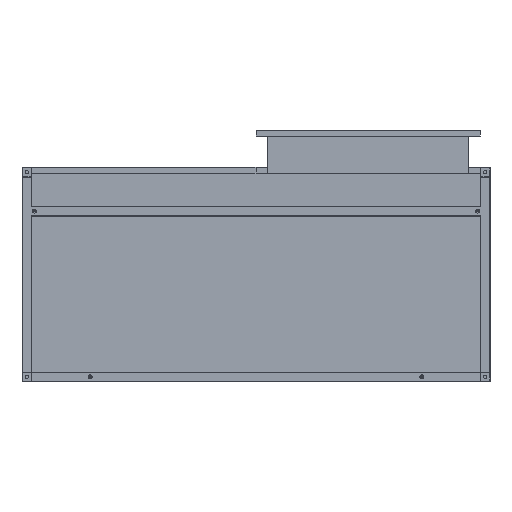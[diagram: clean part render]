
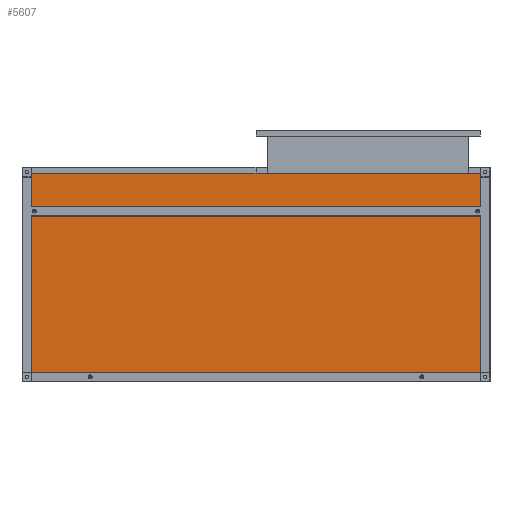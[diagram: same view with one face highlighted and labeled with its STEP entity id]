
A CAD part, front view. The second image highlights one B-rep face of the part: STEP entity #5607.
In plain terms, the highlighted planar face has unit normal (0, -1, 0).
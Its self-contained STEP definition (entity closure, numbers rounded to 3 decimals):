
#19 = CARTESIAN_POINT ( 'NONE',  ( 575., -250., 0. ) ) ;
#179 = ORIENTED_EDGE ( 'NONE', *, *, #7510, .F. ) ;
#574 = CARTESIAN_POINT ( 'NONE',  ( -575., -250., 0. ) ) ;
#628 = CARTESIAN_POINT ( 'NONE',  ( -575., -250., 535. ) ) ;
#1635 = VECTOR ( 'NONE', #6500, 1000. ) ;
#1817 = FACE_OUTER_BOUND ( 'NONE', #3811, .T. ) ;
#1906 = VECTOR ( 'NONE', #2624, 1000. ) ;
#2071 = VERTEX_POINT ( 'NONE', #628 ) ;
#2624 = DIRECTION ( 'NONE',  ( 0., 0., -1. ) ) ;
#2671 = LINE ( 'NONE', #6995, #1906 ) ;
#3131 = CARTESIAN_POINT ( 'NONE',  ( -575., -250., 0. ) ) ;
#3153 = VECTOR ( 'NONE', #8027, 1000. ) ;
#3348 = VERTEX_POINT ( 'NONE', #5970 ) ;
#3714 = PLANE ( 'NONE',  #7922 ) ;
#3811 = EDGE_LOOP ( 'NONE', ( #5212, #5703, #179, #4057 ) ) ;
#3904 = LINE ( 'NONE', #3131, #3153 ) ;
#4057 = ORIENTED_EDGE ( 'NONE', *, *, #5445, .F. ) ;
#4147 = DIRECTION ( 'NONE',  ( 1., 0., 0. ) ) ;
#4330 = DIRECTION ( 'NONE',  ( 0., 1., 0. ) ) ;
#4639 = LINE ( 'NONE', #7152, #1635 ) ;
#4865 = CARTESIAN_POINT ( 'NONE',  ( 0., -250., 0. ) ) ;
#5196 = EDGE_CURVE ( 'NONE', #2071, #3348, #5540, .T. ) ;
#5212 = ORIENTED_EDGE ( 'NONE', *, *, #6141, .F. ) ;
#5309 = VERTEX_POINT ( 'NONE', #19 ) ;
#5445 = EDGE_CURVE ( 'Bordo1', #5309, #6077, #4639, .T. ) ;
#5540 = LINE ( 'NONE', #8047, #5974 ) ;
#5607 = ADVANCED_FACE ( 'NONE', ( #1817 ), #3714, .F. ) ;
#5703 = ORIENTED_EDGE ( 'NONE', *, *, #5196, .F. ) ;
#5970 = CARTESIAN_POINT ( 'NONE',  ( 575., -250., 535. ) ) ;
#5974 = VECTOR ( 'NONE', #4147, 1000. ) ;
#6077 = VERTEX_POINT ( 'NONE', #574 ) ;
#6141 = EDGE_CURVE ( 'NONE', #3348, #5309, #2671, .T. ) ;
#6500 = DIRECTION ( 'NONE',  ( -1., 0., 0. ) ) ;
#6842 = DIRECTION ( 'NONE',  ( 0., 0., 1. ) ) ;
#6995 = CARTESIAN_POINT ( 'NONE',  ( 575., -250., 0. ) ) ;
#7152 = CARTESIAN_POINT ( 'NONE',  ( -575., -250., 0. ) ) ;
#7510 = EDGE_CURVE ( 'NONE', #6077, #2071, #3904, .T. ) ;
#7922 = AXIS2_PLACEMENT_3D ( 'NONE', #4865, #4330, #6842 ) ;
#8027 = DIRECTION ( 'NONE',  ( 0., 0., 1. ) ) ;
#8047 = CARTESIAN_POINT ( 'NONE',  ( -575., -250., 535. ) ) ;
